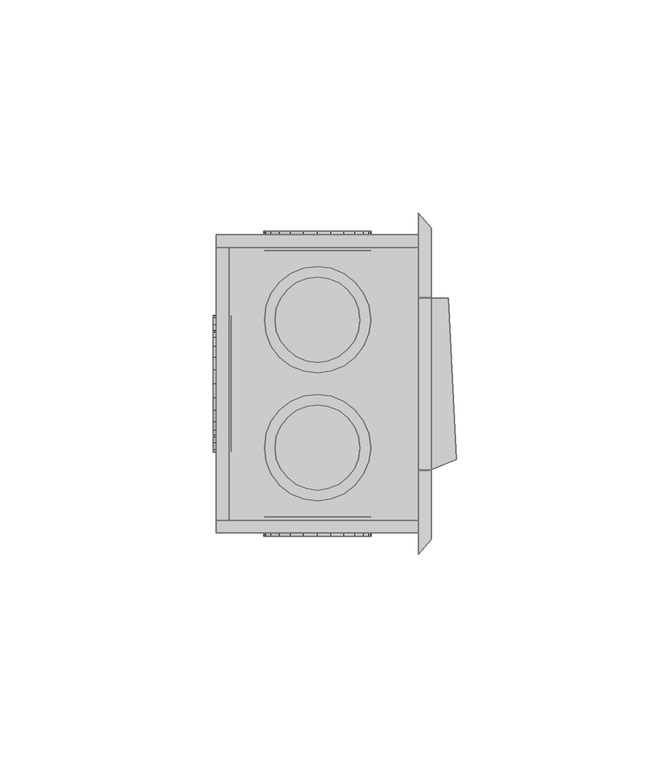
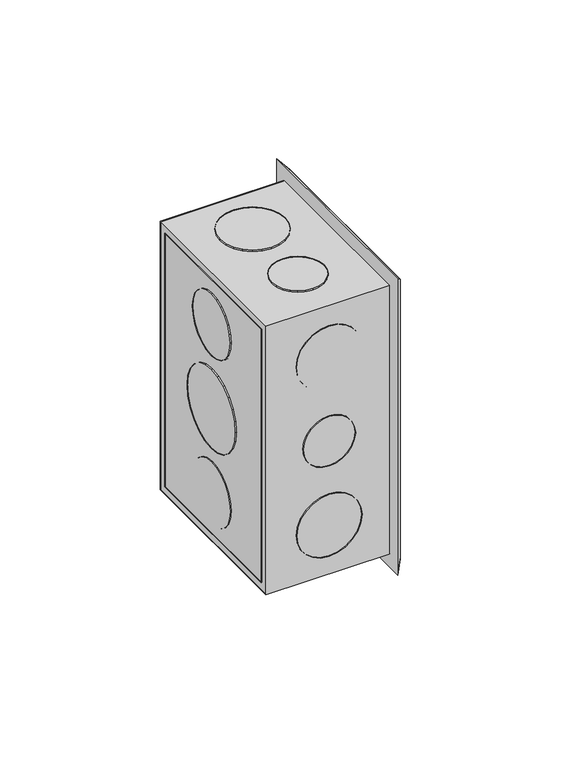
"""IFC4 building model written with IfcOpenShell, lengths in millimetres: proxy geometry,  210773 :  210773."""

from ifc_helpers import new_model, si_unit, origin, place, context, project, spatial, triangles, source, transform, mapped, element, save


def generic_models_089362e7(model_context):
    return source(origin(), model_context, "Body", "Tessellation", [
        triangles([(12653.3997437, 30199.5008423, 1254.3000378), (12653.3997437, 30196.5010254, 1148.7000154), (12653.3997437, 30199.5008423, 1145.6999805), (12653.3997437, 30196.5010254, 1251.2999302), (12653.3997437, 30129.5004639, 1254.3000378), (12653.3997437, 30132.5002808, 1251.2999302), (12653.3997437, 30129.5004639, 1145.6999805), (12653.3997437, 30132.5002808, 1148.7000154), (12605.9003174, 30196.5010254, 1251.2999302), (12605.9003174, 30196.5010254, 1148.7000154), (12605.9003174, 30129.5004639, 1254.3000378), (12605.9003174, 30129.5004639, 1145.6999805), (12605.9003174, 30132.5002808, 1251.2999302), (12605.9003174, 30199.5008423, 1145.6999805), (12605.9003174, 30132.5002808, 1148.7000154), (12605.9003174, 30199.5008423, 1254.3000378), (12608.9001343, 30196.5010254, 1251.2999302), (12608.9001343, 30132.5002808, 1148.7000154), (12608.9001343, 30196.5010254, 1148.7000154), (12608.9001343, 30132.5002808, 1251.2999302), (12609.4001038, 30178.3998047, 1191.9999887), (12609.4001038, 30172.5001648, 1186.0999855), (12609.4001038, 30175.7999634, 1188.6999722), (12609.4001038, 30179.999707, 1195.8999687), (12609.4001038, 30168.7003967, 1184.5000105), (12609.4001038, 30180.4996765, 1200.0000092), (12609.4001038, 30164.5006531, 1183.9999683), (12609.4001038, 30179.999707, 1204.0999769), (12609.4001038, 30160.4009033, 1184.5000105), (12609.4001038, 30178.3998047, 1208.0000296), (12609.4001038, 30156.5011414, 1186.0999855), (12609.4001038, 30175.7999634, 1211.2999735), (12609.4001038, 30153.1990173, 1188.6999722), (12609.4001038, 30172.5001648, 1213.9000328), (12609.4001038, 30150.6991699, 1191.9999887), (12609.4001038, 30168.7003967, 1215.5000078), (12609.4001038, 30149.0992676, 1195.8999687), (12609.4001038, 30164.5006531, 1215.9999773), (12609.4001038, 30148.4993042, 1200.0000092), (12609.4001038, 30160.4009033, 1215.5000078), (12609.4001038, 30149.0992676, 1204.0999769), (12609.4001038, 30156.5011414, 1213.9000328), (12609.4001038, 30150.6991699, 1208.0000296), (12609.4001038, 30153.1990173, 1211.2999735), (12605.2003601, 30160.4009033, 1184.5000105), (12605.2003601, 30164.5006531, 1183.9999683), (12605.2003601, 30168.7003967, 1184.5000105), (12605.2003601, 30172.5001648, 1186.0999855), (12605.2003601, 30175.7999634, 1188.6999722), (12605.2003601, 30178.3998047, 1191.9999887), (12605.2003601, 30179.999707, 1195.8999687), (12605.2003601, 30180.4996765, 1200.0000092), (12605.2003601, 30179.999707, 1204.0999769), (12605.2003601, 30178.3998047, 1208.0000296), (12605.2003601, 30175.7999634, 1211.2999735), (12605.2003601, 30172.5001648, 1213.9000328), (12605.2003601, 30168.7003967, 1215.5000078), (12605.2003601, 30164.5006531, 1215.9999773), (12605.2003601, 30160.4009033, 1215.5000078), (12605.2003601, 30156.5011414, 1213.9000328), (12605.2003601, 30153.1990173, 1211.2999735), (12605.2003601, 30150.6991699, 1208.0000296), (12605.2003601, 30149.0992676, 1204.0999769), (12605.2003601, 30148.4993042, 1200.0000092), (12605.2003601, 30149.0992676, 1195.8999687), (12605.2003601, 30150.6991699, 1191.9999887), (12605.2003601, 30153.1990173, 1188.6999722), (12605.2003601, 30156.5011414, 1186.0999855), (12609.4001038, 30175.3999878, 1227.8000565), (12609.4001038, 30170.8002686, 1223.2000465), (12609.4001038, 30173.4001099, 1225.2000698), (12609.4001038, 30176.5999146, 1230.8000187), (12609.4001038, 30167.8004517, 1221.8999805), (12609.4001038, 30176.9998901, 1233.9999687), (12609.4001038, 30164.5006531, 1221.500005), (12609.4001038, 30176.5999146, 1237.2000641), (12609.4001038, 30161.3008484, 1221.8999805), (12609.4001038, 30175.3999878, 1240.3000202), (12609.4001038, 30158.3010315, 1223.2000465), (12609.4001038, 30173.4001099, 1242.800013), (12609.4001038, 30155.6988647, 1225.2000698), (12609.4001038, 30153.6989868, 1227.8000565), (12609.4001038, 30170.8002686, 1244.8000362), (12609.4001038, 30167.8004517, 1246.0999569), (12609.4001038, 30152.4990601, 1230.8000187), (12609.4001038, 30164.5006531, 1246.4999325), (12609.4001038, 30151.9990906, 1233.9999687), (12609.4001038, 30161.3008484, 1246.0999569), (12609.4001038, 30152.4990601, 1237.2000641), (12609.4001038, 30153.6989868, 1240.3000202), (12609.4001038, 30158.3010315, 1244.8000362), (12609.4001038, 30155.6988647, 1242.800013), (12605.2003601, 30152.4990601, 1230.8000187), (12605.2003601, 30153.6989868, 1227.8000565), (12605.2003601, 30155.6988647, 1225.2000698), (12605.2003601, 30158.3010315, 1223.2000465), (12605.2003601, 30161.3008484, 1221.8999805), (12605.2003601, 30164.5006531, 1221.500005), (12605.2003601, 30167.8004517, 1221.8999805), (12605.2003601, 30170.8002686, 1223.2000465), (12605.2003601, 30173.4001099, 1225.2000698), (12605.2003601, 30175.3999878, 1227.8000565), (12605.2003601, 30176.5999146, 1230.8000187), (12605.2003601, 30176.9998901, 1233.9999687), (12605.2003601, 30176.5999146, 1237.2000641), (12605.2003601, 30175.3999878, 1240.3000202), (12605.2003601, 30173.4001099, 1242.800013), (12605.2003601, 30170.8002686, 1244.8000362), (12605.2003601, 30167.8004517, 1246.0999569), (12605.2003601, 30164.5006531, 1246.4999325), (12605.2003601, 30161.3008484, 1246.0999569), (12605.2003601, 30158.3010315, 1244.8000362), (12605.2003601, 30155.6988647, 1242.800013), (12605.2003601, 30153.6989868, 1240.3000202), (12605.2003601, 30152.4990601, 1237.2000641), (12605.2003601, 30151.9990906, 1233.9999687), (12605.2003601, 30170.8002686, 1155.1999821), (12605.2003601, 30175.3999878, 1159.6999981), (12605.2003601, 30173.4001099, 1157.2000053), (12605.2003601, 30167.8004517, 1153.8999887), (12605.2003601, 30176.5999146, 1162.8000269), (12605.2003601, 30164.5006531, 1153.5000132), (12605.2003601, 30176.9998901, 1165.9999769), (12605.2003601, 30161.3008484, 1153.8999887), (12605.2003601, 30176.5999146, 1169.1999996), (12605.2003601, 30158.3010315, 1155.1999821), (12605.2003601, 30175.3999878, 1172.2000345), (12605.2003601, 30155.6988647, 1157.2000053), (12605.2003601, 30173.4001099, 1174.8000212), (12605.2003601, 30153.6989868, 1159.6999981), (12605.2003601, 30170.8002686, 1176.7999718), (12605.2003601, 30152.4990601, 1162.8000269), (12605.2003601, 30167.8004517, 1178.0999651), (12605.2003601, 30164.5006531, 1178.5000134), (12605.2003601, 30151.9990906, 1165.9999769), (12605.2003601, 30152.4990601, 1169.1999996), (12605.2003601, 30161.3008484, 1178.0999651), (12605.2003601, 30153.6989868, 1172.2000345), (12605.2003601, 30158.3010315, 1176.7999718), (12605.2003601, 30155.6988647, 1174.8000212), (12609.4001038, 30167.8004517, 1178.0999651), (12609.4001038, 30164.5006531, 1178.5000134), (12609.4001038, 30170.8002686, 1176.7999718), (12609.4001038, 30173.4001099, 1174.8000212), (12609.4001038, 30175.3999878, 1172.2000345), (12609.4001038, 30176.5999146, 1169.1999996), (12609.4001038, 30176.9998901, 1165.9999769), (12609.4001038, 30176.5999146, 1162.8000269), (12609.4001038, 30175.3999878, 1159.6999981), (12609.4001038, 30173.4001099, 1157.2000053), (12609.4001038, 30170.8002686, 1155.1999821), (12609.4001038, 30167.8004517, 1153.8999887), (12609.4001038, 30164.5006531, 1153.5000132), (12609.4001038, 30161.3008484, 1153.8999887), (12609.4001038, 30158.3010315, 1155.1999821), (12609.4001038, 30155.6988647, 1157.2000053), (12609.4001038, 30153.6989868, 1159.6999981), (12609.4001038, 30152.4990601, 1162.8000269), (12609.4001038, 30151.9990906, 1165.9999769), (12609.4001038, 30152.4990601, 1169.1999996), (12609.4001038, 30153.6989868, 1172.2000345), (12609.4001038, 30155.6988647, 1174.8000212), (12609.4001038, 30158.3010315, 1176.7999718), (12609.4001038, 30161.3008484, 1178.0999651), (12624.7003326, 30195.7010742, 1191.3000315), (12621.0005585, 30195.7010742, 1195.0000237), (12622.6004608, 30195.7010742, 1192.9000065), (12619.9994568, 30195.7010742, 1197.4000225), (12627.1001862, 30195.7010742, 1190.3000198), (12619.6994751, 30195.7010742, 1200.0000092), (12629.7000275, 30195.7010742, 1189.9999655), (12632.1998749, 30195.7010742, 1190.3000198), (12619.9994568, 30195.7010742, 1202.5999958), (12621.0005585, 30195.7010742, 1204.9999947), (12634.6997223, 30195.7010742, 1191.3000315), (12622.6004608, 30195.7010742, 1207.1000118), (12636.6996002, 30195.7010742, 1192.9000065), (12638.2995026, 30195.7010742, 1195.0000237), (12624.7003326, 30195.7010742, 1208.6999868), (12639.2994415, 30195.7010742, 1197.4000225), (12627.1001862, 30195.7010742, 1209.6999985), (12639.7005798, 30195.7010742, 1200.0000092), (12629.7000275, 30195.7010742, 1209.9999802), (12639.2994415, 30195.7010742, 1202.5999958), (12632.1998749, 30195.7010742, 1209.6999985), (12634.6997223, 30195.7010742, 1208.6999868), (12638.2995026, 30195.7010742, 1204.9999947), (12636.6996002, 30195.7010742, 1207.1000118), (12629.7000275, 30200.3007935, 1189.9999655), (12627.1001862, 30200.3007935, 1190.3000198), (12632.1998749, 30200.3007935, 1190.3000198), (12634.6997223, 30200.3007935, 1191.3000315), (12636.6996002, 30200.3007935, 1192.9000065), (12638.2995026, 30200.3007935, 1195.0000237), (12639.2994415, 30200.3007935, 1197.4000225), (12639.7005798, 30200.3007935, 1200.0000092), (12639.2994415, 30200.3007935, 1202.5999958), (12638.2995026, 30200.3007935, 1204.9999947), (12636.6996002, 30200.3007935, 1207.1000118), (12634.6997223, 30200.3007935, 1208.6999868), (12632.1998749, 30200.3007935, 1209.6999985), (12629.7000275, 30200.3007935, 1209.9999802), (12627.1001862, 30200.3007935, 1209.6999985), (12624.7003326, 30200.3007935, 1208.6999868), (12622.6004608, 30200.3007935, 1207.1000118), (12621.0005585, 30200.3007935, 1204.9999947), (12619.9994568, 30200.3007935, 1202.5999958), (12619.6994751, 30200.3007935, 1200.0000092), (12619.9994568, 30200.3007935, 1197.4000225), (12621.0005585, 30200.3007935, 1195.0000237), (12622.6004608, 30200.3007935, 1192.9000065), (12624.7003326, 30200.3007935, 1191.3000315), (12623.400412, 30195.7010742, 1223.2000465), (12618.79953, 30195.7010742, 1227.8000565), (12620.8005707, 30195.7010742, 1225.2000698), (12626.4002289, 30195.7010742, 1221.8999805), (12617.5996033, 30195.7010742, 1230.8000187), (12617.1996277, 30195.7010742, 1233.9999687), (12629.7000275, 30195.7010742, 1221.500005), (12632.8998322, 30195.7010742, 1221.8999805), (12617.5996033, 30195.7010742, 1237.2000641), (12618.79953, 30195.7010742, 1240.3000202), (12635.899649, 30195.7010742, 1223.2000465), (12638.4994904, 30195.7010742, 1225.2000698), (12620.8005707, 30195.7010742, 1242.800013), (12640.500531, 30195.7010742, 1227.8000565), (12623.400412, 30195.7010742, 1244.8000362), (12641.7004578, 30195.7010742, 1230.8000187), (12626.4002289, 30195.7010742, 1246.0999569), (12642.2004272, 30195.7010742, 1233.9999687), (12629.7000275, 30195.7010742, 1246.4999325), (12641.7004578, 30195.7010742, 1237.2000641), (12632.8998322, 30195.7010742, 1246.0999569), (12640.500531, 30195.7010742, 1240.3000202), (12635.899649, 30195.7010742, 1244.8000362), (12638.4994904, 30195.7010742, 1242.800013), (12629.7000275, 30200.3007935, 1221.500005), (12626.4002289, 30200.3007935, 1221.8999805), (12632.8998322, 30200.3007935, 1221.8999805), (12635.899649, 30200.3007935, 1223.2000465), (12638.4994904, 30200.3007935, 1225.2000698), (12640.500531, 30200.3007935, 1227.8000565), (12641.7004578, 30200.3007935, 1230.8000187), (12642.2004272, 30200.3007935, 1233.9999687), (12641.7004578, 30200.3007935, 1237.2000641), (12640.500531, 30200.3007935, 1240.3000202), (12638.4994904, 30200.3007935, 1242.800013), (12635.899649, 30200.3007935, 1244.8000362), (12632.8998322, 30200.3007935, 1246.0999569), (12629.7000275, 30200.3007935, 1246.4999325), (12626.4002289, 30200.3007935, 1246.0999569), (12623.400412, 30200.3007935, 1244.8000362), (12620.8005707, 30200.3007935, 1242.800013), (12618.79953, 30200.3007935, 1240.3000202), (12617.5996033, 30200.3007935, 1237.2000641), (12617.1996277, 30200.3007935, 1233.9999687), (12617.5996033, 30200.3007935, 1230.8000187), (12618.79953, 30200.3007935, 1227.8000565), (12620.8005707, 30200.3007935, 1225.2000698), (12623.400412, 30200.3007935, 1223.2000465), (12618.79953, 30200.3007935, 1159.6999981), (12623.400412, 30200.3007935, 1155.1999821), (12620.8005707, 30200.3007935, 1157.2000053), (12617.5996033, 30200.3007935, 1162.8000269), (12626.4002289, 30200.3007935, 1153.8999887), (12617.1996277, 30200.3007935, 1165.9999769), (12629.7000275, 30200.3007935, 1153.5000132), (12617.5996033, 30200.3007935, 1169.1999996), (12632.8998322, 30200.3007935, 1153.8999887), (12618.79953, 30200.3007935, 1172.2000345), (12635.899649, 30200.3007935, 1155.1999821), (12620.8005707, 30200.3007935, 1174.8000212), (12638.4994904, 30200.3007935, 1157.2000053), (12623.400412, 30200.3007935, 1176.7999718), (12640.500531, 30200.3007935, 1159.6999981), (12626.4002289, 30200.3007935, 1178.0999651), (12641.7004578, 30200.3007935, 1162.8000269), (12629.7000275, 30200.3007935, 1178.5000134), (12642.2004272, 30200.3007935, 1165.9999769), (12632.8998322, 30200.3007935, 1178.0999651), (12641.7004578, 30200.3007935, 1169.1999996), (12635.899649, 30200.3007935, 1176.7999718), (12640.500531, 30200.3007935, 1172.2000345), (12638.4994904, 30200.3007935, 1174.8000212), (12626.4002289, 30195.7010742, 1178.0999651), (12629.7000275, 30195.7010742, 1178.5000134), (12632.8998322, 30195.7010742, 1178.0999651), (12635.899649, 30195.7010742, 1176.7999718), (12638.4994904, 30195.7010742, 1174.8000212), (12640.500531, 30195.7010742, 1172.2000345), (12641.7004578, 30195.7010742, 1169.1999996), (12642.2004272, 30195.7010742, 1165.9999769), (12641.7004578, 30195.7010742, 1162.8000269), (12640.500531, 30195.7010742, 1159.6999981), (12638.4994904, 30195.7010742, 1157.2000053), (12635.899649, 30195.7010742, 1155.1999821), (12632.8998322, 30195.7010742, 1153.8999887), (12629.7000275, 30195.7010742, 1153.5000132), (12626.4002289, 30195.7010742, 1153.8999887), (12623.400412, 30195.7010742, 1155.1999821), (12620.8005707, 30195.7010742, 1157.2000053), (12618.79953, 30195.7010742, 1159.6999981), (12617.5996033, 30195.7010742, 1162.8000269), (12617.1996277, 30195.7010742, 1165.9999769), (12617.5996033, 30195.7010742, 1169.1999996), (12618.79953, 30195.7010742, 1172.2000345), (12620.8005707, 30195.7010742, 1174.8000212), (12623.400412, 30195.7010742, 1176.7999718), (12621.0005585, 30133.3002319, 1195.0000237), (12624.7003326, 30133.3002319, 1191.3000315), (12622.6004608, 30133.3002319, 1192.9000065), (12619.9994568, 30133.3002319, 1197.4000225), (12627.1001862, 30133.3002319, 1190.3000198), (12619.6994751, 30133.3002319, 1200.0000092), (12629.7000275, 30133.3002319, 1189.9999655), (12619.9994568, 30133.3002319, 1202.5999958), (12632.1998749, 30133.3002319, 1190.3000198), (12621.0005585, 30133.3002319, 1204.9999947), (12634.6997223, 30133.3002319, 1191.3000315), (12622.6004608, 30133.3002319, 1207.1000118), (12636.6996002, 30133.3002319, 1192.9000065), (12624.7003326, 30133.3002319, 1208.6999868), (12638.2995026, 30133.3002319, 1195.0000237), (12627.1001862, 30133.3002319, 1209.6999985), (12639.2994415, 30133.3002319, 1197.4000225), (12639.7005798, 30133.3002319, 1200.0000092), (12629.7000275, 30133.3002319, 1209.9999802), (12632.1998749, 30133.3002319, 1209.6999985), (12639.2994415, 30133.3002319, 1202.5999958), (12634.6997223, 30133.3002319, 1208.6999868), (12638.2995026, 30133.3002319, 1204.9999947), (12636.6996002, 30133.3002319, 1207.1000118), (12627.1001862, 30128.7005127, 1209.6999985), (12629.7000275, 30128.7005127, 1209.9999802), (12632.1998749, 30128.7005127, 1209.6999985), (12634.6997223, 30128.7005127, 1208.6999868), (12636.6996002, 30128.7005127, 1207.1000118), (12638.2995026, 30128.7005127, 1204.9999947), (12639.2994415, 30128.7005127, 1202.5999958), (12639.7005798, 30128.7005127, 1200.0000092), (12639.2994415, 30128.7005127, 1197.4000225), (12638.2995026, 30128.7005127, 1195.0000237), (12636.6996002, 30128.7005127, 1192.9000065), (12634.6997223, 30128.7005127, 1191.3000315), (12632.1998749, 30128.7005127, 1190.3000198), (12629.7000275, 30128.7005127, 1189.9999655), (12627.1001862, 30128.7005127, 1190.3000198), (12624.7003326, 30128.7005127, 1191.3000315), (12622.6004608, 30128.7005127, 1192.9000065), (12621.0005585, 30128.7005127, 1195.0000237), (12619.9994568, 30128.7005127, 1197.4000225), (12619.6994751, 30128.7005127, 1200.0000092), (12619.9994568, 30128.7005127, 1202.5999958), (12621.0005585, 30128.7005127, 1204.9999947), (12622.6004608, 30128.7005127, 1207.1000118), (12624.7003326, 30128.7005127, 1208.6999868), (12618.79953, 30133.3002319, 1159.6999981), (12623.400412, 30133.3002319, 1155.1999821), (12620.8005707, 30133.3002319, 1157.2000053), (12617.5996033, 30133.3002319, 1162.8000269), (12626.4002289, 30133.3002319, 1153.8999887), (12617.1996277, 30133.3002319, 1165.9999769), (12629.7000275, 30133.3002319, 1153.5000132), (12617.5996033, 30133.3002319, 1169.1999996), (12632.8998322, 30133.3002319, 1153.8999887), (12618.79953, 30133.3002319, 1172.2000345), (12635.899649, 30133.3002319, 1155.1999821), (12620.8005707, 30133.3002319, 1174.8000212), (12638.4994904, 30133.3002319, 1157.2000053), (12623.400412, 30133.3002319, 1176.7999718), (12640.500531, 30133.3002319, 1159.6999981), (12626.4002289, 30133.3002319, 1178.0999651), (12641.7004578, 30133.3002319, 1162.8000269), (12629.7000275, 30133.3002319, 1178.5000134), (12642.2004272, 30133.3002319, 1165.9999769), (12632.8998322, 30133.3002319, 1178.0999651), (12641.7004578, 30133.3002319, 1169.1999996), (12635.899649, 30133.3002319, 1176.7999718), (12640.500531, 30133.3002319, 1172.2000345), (12638.4994904, 30133.3002319, 1174.8000212), (12626.4002289, 30128.7005127, 1178.0999651), (12629.7000275, 30128.7005127, 1178.5000134), (12632.8998322, 30128.7005127, 1178.0999651), (12635.899649, 30128.7005127, 1176.7999718), (12638.4994904, 30128.7005127, 1174.8000212), (12640.500531, 30128.7005127, 1172.2000345), (12641.7004578, 30128.7005127, 1169.1999996), (12642.2004272, 30128.7005127, 1165.9999769), (12641.7004578, 30128.7005127, 1162.8000269), (12640.500531, 30128.7005127, 1159.6999981), (12638.4994904, 30128.7005127, 1157.2000053), (12635.899649, 30128.7005127, 1155.1999821), (12632.8998322, 30128.7005127, 1153.8999887), (12629.7000275, 30128.7005127, 1153.5000132), (12626.4002289, 30128.7005127, 1153.8999887), (12623.400412, 30128.7005127, 1155.1999821), (12620.8005707, 30128.7005127, 1157.2000053), (12618.79953, 30128.7005127, 1159.6999981), (12617.5996033, 30128.7005127, 1162.8000269), (12617.1996277, 30128.7005127, 1165.9999769), (12617.5996033, 30128.7005127, 1169.1999996), (12618.79953, 30128.7005127, 1172.2000345), (12620.8005707, 30128.7005127, 1174.8000212), (12623.400412, 30128.7005127, 1176.7999718), (12623.400412, 30128.7005127, 1223.2000465), (12618.79953, 30128.7005127, 1227.8000565), (12620.8005707, 30128.7005127, 1225.2000698), (12626.4002289, 30128.7005127, 1221.8999805), (12617.5996033, 30128.7005127, 1230.8000187), (12617.1996277, 30128.7005127, 1233.9999687), (12629.7000275, 30128.7005127, 1221.500005), (12632.8998322, 30128.7005127, 1221.8999805), (12617.5996033, 30128.7005127, 1237.2000641), (12618.79953, 30128.7005127, 1240.3000202), (12635.899649, 30128.7005127, 1223.2000465), (12638.4994904, 30128.7005127, 1225.2000698), (12620.8005707, 30128.7005127, 1242.800013), (12640.500531, 30128.7005127, 1227.8000565), (12623.400412, 30128.7005127, 1244.8000362), (12641.7004578, 30128.7005127, 1230.8000187), (12626.4002289, 30128.7005127, 1246.0999569), (12642.2004272, 30128.7005127, 1233.9999687), (12629.7000275, 30128.7005127, 1246.4999325), (12641.7004578, 30128.7005127, 1237.2000641), (12632.8998322, 30128.7005127, 1246.0999569), (12640.500531, 30128.7005127, 1240.3000202), (12635.899649, 30128.7005127, 1244.8000362), (12638.4994904, 30128.7005127, 1242.800013), (12629.7000275, 30133.3002319, 1221.500005), (12626.4002289, 30133.3002319, 1221.8999805), (12632.8998322, 30133.3002319, 1221.8999805), (12635.899649, 30133.3002319, 1223.2000465), (12638.4994904, 30133.3002319, 1225.2000698), (12640.500531, 30133.3002319, 1227.8000565), (12641.7004578, 30133.3002319, 1230.8000187), (12642.2004272, 30133.3002319, 1233.9999687), (12641.7004578, 30133.3002319, 1237.2000641), (12640.500531, 30133.3002319, 1240.3000202), (12638.4994904, 30133.3002319, 1242.800013), (12635.899649, 30133.3002319, 1244.8000362), (12632.8998322, 30133.3002319, 1246.0999569), (12629.7000275, 30133.3002319, 1246.4999325), (12626.4002289, 30133.3002319, 1246.0999569), (12623.400412, 30133.3002319, 1244.8000362), (12620.8005707, 30133.3002319, 1242.800013), (12618.79953, 30133.3002319, 1240.3000202), (12617.5996033, 30133.3002319, 1237.2000641), (12617.1996277, 30133.3002319, 1233.9999687), (12617.5996033, 30133.3002319, 1230.8000187), (12618.79953, 30133.3002319, 1227.8000565), (12620.8005707, 30133.3002319, 1225.2000698), (12623.400412, 30133.3002319, 1223.2000465), (12623.400412, 30190.3990723, 1250.9999485), (12618.79953, 30185.799353, 1250.9999485), (12620.8005707, 30188.3991943, 1250.9999485), (12626.4002289, 30191.598999, 1250.9999485), (12617.5996033, 30182.7995361, 1250.9999485), (12617.1996277, 30179.4997375, 1250.9999485), (12629.7000275, 30191.9989746, 1250.9999485), (12632.8998322, 30191.598999, 1250.9999485), (12617.5996033, 30176.2999329, 1250.9999485), (12618.79953, 30173.300116, 1250.9999485), (12635.899649, 30190.3990723, 1250.9999485), (12638.4994904, 30188.3991943, 1250.9999485), (12620.8005707, 30170.7002747, 1250.9999485), (12623.400412, 30168.7003967, 1250.9999485), (12640.500531, 30185.799353, 1250.9999485), (12641.7004578, 30182.7995361, 1250.9999485), (12626.4002289, 30167.50047, 1250.9999485), (12642.2004272, 30179.4997375, 1250.9999485), (12629.7000275, 30167.0005005, 1250.9999485), (12641.7004578, 30176.2999329, 1250.9999485), (12632.8998322, 30167.50047, 1250.9999485), (12635.899649, 30168.7003967, 1250.9999485), (12640.500531, 30173.300116, 1250.9999485), (12638.4994904, 30170.7002747, 1250.9999485), (12617.1996277, 30179.4997375, 1255.1999828), (12617.5996033, 30176.2999329, 1255.1999828), (12617.5996033, 30182.7995361, 1255.1999828), (12618.79953, 30185.799353, 1255.1999828), (12620.8005707, 30188.3991943, 1255.1999828), (12623.400412, 30190.3990723, 1255.1999828), (12626.4002289, 30191.598999, 1255.1999828), (12629.7000275, 30191.9989746, 1255.1999828), (12632.8998322, 30191.598999, 1255.1999828), (12635.899649, 30190.3990723, 1255.1999828), (12638.4994904, 30188.3991943, 1255.1999828), (12640.500531, 30185.799353, 1255.1999828), (12641.7004578, 30182.7995361, 1255.1999828), (12642.2004272, 30179.4997375, 1255.1999828), (12641.7004578, 30176.2999329, 1255.1999828), (12640.500531, 30173.300116, 1255.1999828), (12638.4994904, 30170.7002747, 1255.1999828), (12635.899649, 30168.7003967, 1255.1999828), (12632.8998322, 30167.50047, 1255.1999828), (12629.7000275, 30167.0005005, 1255.1999828), (12626.4002289, 30167.50047, 1255.1999828), (12623.400412, 30168.7003967, 1255.1999828), (12620.8005707, 30170.7002747, 1255.1999828), (12618.79953, 30173.300116, 1255.1999828), (12624.7003326, 30158.2010376, 1250.9999485), (12621.0005585, 30154.498938, 1250.9999485), (12622.6004608, 30156.6011353, 1250.9999485), (12619.9994568, 30152.0990845, 1250.9999485), (12627.1001862, 30159.2009766, 1250.9999485), (12619.6994751, 30149.4992432, 1250.9999485), (12629.7000275, 30159.5009583, 1250.9999485), (12632.1998749, 30159.2009766, 1250.9999485), (12619.9994568, 30146.8994019, 1250.9999485), (12621.0005585, 30144.4995483, 1250.9999485), (12634.6997223, 30158.2010376, 1250.9999485), (12622.6004608, 30142.4996704, 1250.9999485), (12636.6996002, 30156.6011353, 1250.9999485), (12638.2995026, 30154.498938, 1250.9999485), (12624.7003326, 30140.8997681, 1250.9999485), (12627.1001862, 30139.8998291, 1250.9999485), (12639.2994415, 30152.0990845, 1250.9999485), (12639.7005798, 30149.4992432, 1250.9999485), (12629.7000275, 30139.4998535, 1250.9999485), (12639.2994415, 30146.8994019, 1250.9999485), (12632.1998749, 30139.8998291, 1250.9999485), (12638.2995026, 30144.4995483, 1250.9999485), (12634.6997223, 30140.8997681, 1250.9999485), (12636.6996002, 30142.4996704, 1250.9999485), (12619.9994568, 30146.8994019, 1255.1999828), (12621.0005585, 30144.4995483, 1255.1999828), (12619.6994751, 30149.4992432, 1255.1999828), (12619.9994568, 30152.0990845, 1255.1999828), (12621.0005585, 30154.498938, 1255.1999828), (12622.6004608, 30156.6011353, 1255.1999828), (12624.7003326, 30158.2010376, 1255.1999828), (12627.1001862, 30159.2009766, 1255.1999828), (12629.7000275, 30159.5009583, 1255.1999828), (12632.1998749, 30159.2009766, 1255.1999828), (12634.6997223, 30158.2010376, 1255.1999828), (12636.6996002, 30156.6011353, 1255.1999828), (12638.2995026, 30154.498938, 1255.1999828), (12639.2994415, 30152.0990845, 1255.1999828), (12639.7005798, 30149.4992432, 1255.1999828), (12639.2994415, 30146.8994019, 1255.1999828), (12638.2995026, 30144.4995483, 1255.1999828), (12636.6996002, 30142.4996704, 1255.1999828), (12634.6997223, 30140.8997681, 1255.1999828), (12632.1998749, 30139.8998291, 1255.1999828), (12629.7000275, 30139.4998535, 1255.1999828), (12627.1001862, 30139.8998291, 1255.1999828), (12624.7003326, 30140.8997681, 1255.1999828), (12622.6004608, 30142.4996704, 1255.1999828), (12624.7003326, 30188.1992065, 1144.8000355), (12621.0005585, 30184.4994324, 1144.8000355), (12622.6004608, 30186.5993042, 1144.8000355), (12619.9994568, 30182.0995789, 1144.8000355), (12627.1001862, 30189.1991455, 1144.8000355), (12619.6994751, 30179.4997375, 1144.8000355), (12629.7000275, 30189.4991272, 1144.8000355), (12632.1998749, 30189.1991455, 1144.8000355), (12619.9994568, 30176.8998962, 1144.8000355), (12621.0005585, 30174.5000427, 1144.8000355), (12634.6997223, 30188.1992065, 1144.8000355), (12622.6004608, 30172.5001648, 1144.8000355), (12636.6996002, 30186.5993042, 1144.8000355), (12638.2995026, 30184.4994324, 1144.8000355), (12624.7003326, 30170.9002625, 1144.8000355), (12627.1001862, 30169.9003235, 1144.8000355), (12639.2994415, 30182.0995789, 1144.8000355), (12639.7005798, 30179.4997375, 1144.8000355), (12629.7000275, 30169.5003479, 1144.8000355), (12639.2994415, 30176.8998962, 1144.8000355), (12632.1998749, 30169.9003235, 1144.8000355), (12638.2995026, 30174.5000427, 1144.8000355), (12634.6997223, 30170.9002625, 1144.8000355), (12636.6996002, 30172.5001648, 1144.8000355), (12619.9994568, 30182.0995789, 1149.099991), (12619.6994751, 30179.4997375, 1149.099991), (12621.0005585, 30184.4994324, 1149.099991), (12622.6004608, 30186.5993042, 1149.099991), (12624.7003326, 30188.1992065, 1149.099991), (12627.1001862, 30189.1991455, 1149.099991), (12629.7000275, 30189.4991272, 1149.099991), (12632.1998749, 30189.1991455, 1149.099991), (12634.6997223, 30188.1992065, 1149.099991), (12636.6996002, 30186.5993042, 1149.099991), (12638.2995026, 30184.4994324, 1149.099991), (12639.2994415, 30182.0995789, 1149.099991), (12639.7005798, 30179.4997375, 1149.099991), (12639.2994415, 30176.8998962, 1149.099991), (12638.2995026, 30174.5000427, 1149.099991), (12636.6996002, 30172.5001648, 1149.099991), (12634.6997223, 30170.9002625, 1149.099991), (12632.1998749, 30169.9003235, 1149.099991), (12629.7000275, 30169.5003479, 1149.099991), (12627.1001862, 30169.9003235, 1149.099991), (12624.7003326, 30170.9002625, 1149.099991), (12622.6004608, 30172.5001648, 1149.099991), (12621.0005585, 30174.5000427, 1149.099991), (12619.9994568, 30176.8998962, 1149.099991), (12623.400412, 30160.4009033, 1144.8000355), (12618.79953, 30155.7988586, 1144.8000355), (12620.8005707, 30158.4010254, 1144.8000355), (12626.4002289, 30161.6008301, 1144.8000355), (12617.5996033, 30152.7990417, 1144.8000355), (12617.1996277, 30149.4992432, 1144.8000355), (12629.7000275, 30162.0008057, 1144.8000355), (12632.8998322, 30161.6008301, 1144.8000355), (12617.5996033, 30146.2994385, 1144.8000355), (12618.79953, 30143.2996216, 1144.8000355), (12635.899649, 30160.4009033, 1144.8000355), (12638.4994904, 30158.4010254, 1144.8000355), (12620.8005707, 30140.6997803, 1144.8000355), (12623.400412, 30138.6999023, 1144.8000355), (12640.500531, 30155.7988586, 1144.8000355), (12641.7004578, 30152.7990417, 1144.8000355), (12626.4002289, 30137.4999756, 1144.8000355), (12642.2004272, 30149.4992432, 1144.8000355), (12629.7000275, 30137.0000061, 1144.8000355), (12641.7004578, 30146.2994385, 1144.8000355), (12632.8998322, 30137.4999756, 1144.8000355), (12635.899649, 30138.6999023, 1144.8000355), (12640.500531, 30143.2996216, 1144.8000355), (12638.4994904, 30140.6997803, 1144.8000355), (12617.5996033, 30146.2994385, 1149.099991), (12618.79953, 30143.2996216, 1149.099991), (12617.1996277, 30149.4992432, 1149.099991), (12617.5996033, 30152.7990417, 1149.099991), (12618.79953, 30155.7988586, 1149.099991), (12620.8005707, 30158.4010254, 1149.099991), (12623.400412, 30160.4009033, 1149.099991), (12626.4002289, 30161.6008301, 1149.099991), (12629.7000275, 30162.0008057, 1149.099991), (12632.8998322, 30161.6008301, 1149.099991), (12635.899649, 30160.4009033, 1149.099991), (12638.4994904, 30158.4010254, 1149.099991), (12640.500531, 30155.7988586, 1149.099991), (12641.7004578, 30152.7990417, 1149.099991), (12642.2004272, 30149.4992432, 1149.099991), (12641.7004578, 30146.2994385, 1149.099991), (12640.500531, 30143.2996216, 1149.099991), (12638.4994904, 30140.6997803, 1149.099991), (12635.899649, 30138.6999023, 1149.099991), (12632.8998322, 30137.4999756, 1149.099991), (12629.7000275, 30137.0000061, 1149.099991), (12626.4002289, 30137.4999756, 1149.099991), (12623.400412, 30138.6999023, 1149.099991), (12620.8005707, 30140.6997803, 1149.099991), (12653.3997437, 30124.500769, 1139.9999651), (12653.3997437, 30184.6994202, 1188.2999966), (12653.3997437, 30204.5005371, 1139.9999651), (12653.3997437, 30144.2995605, 1188.2999966), (12653.3997437, 30124.500769, 1259.9999805), (12653.3997437, 30144.2995605, 1211.7000217), (12653.3997437, 30204.5005371, 1259.9999805), (12653.3997437, 30184.6994202, 1211.7000217), (12656.3995605, 30144.2995605, 1188.2999966), (12656.3995605, 30144.2995605, 1211.7000217), (12656.3995605, 30184.6994202, 1188.2999966), (12656.3995605, 30184.6994202, 1211.7000217), (12656.3995605, 30201.0007507, 1143.4999695), (12656.3995605, 30201.0007507, 1256.5000488), (12656.3995605, 30128.0005554, 1143.4999695), (12656.3995605, 30128.0005554, 1256.5000488), (12660.4004791, 30184.5994263, 1188.1000088), (12653.3997437, 30144.1995667, 1188.1000088), (12653.3997437, 30184.5994263, 1188.1000088), (12662.3003632, 30146.799408, 1188.1000088), (12655.8995911, 30144.1995667, 1188.1000088), (12653.3997437, 30184.5994263, 1211.500034), (12653.3997437, 30144.1995667, 1211.500034), (12660.4004791, 30184.5994263, 1211.500034), (12662.3003632, 30146.799408, 1211.500034), (12655.8995911, 30144.1995667, 1211.500034)], [[1, 2, 3], [2, 1, 4], [5, 4, 1], [4, 5, 6], [3, 2, 7], [7, 2, 8], [7, 8, 6], [7, 6, 5], [2, 9, 10], [9, 2, 4], [7, 11, 12], [11, 7, 5], [4, 13, 9], [13, 4, 6], [3, 12, 14], [12, 3, 7], [13, 8, 15], [8, 13, 6], [16, 3, 14], [3, 16, 1], [15, 2, 10], [2, 15, 8], [11, 1, 16], [1, 11, 5], [12, 10, 14], [10, 12, 15], [11, 15, 12], [15, 11, 13], [14, 10, 16], [16, 10, 9], [16, 9, 13], [16, 13, 11], [17, 18, 19], [18, 17, 20], [18, 13, 15], [13, 18, 20], [19, 15, 10], [15, 19, 18], [9, 19, 10], [19, 9, 17], [13, 17, 9], [17, 13, 20], [15, 9, 10], [9, 15, 13], [21, 22, 23], [22, 21, 24], [25, 22, 24], [25, 24, 26], [27, 25, 26], [27, 26, 28], [29, 27, 28], [29, 28, 30], [31, 29, 30], [31, 30, 32], [31, 32, 33], [33, 32, 34], [33, 34, 35], [35, 34, 36], [35, 36, 37], [37, 36, 38], [37, 38, 39], [39, 38, 40], [39, 40, 41], [41, 40, 42], [41, 42, 43], [43, 42, 44], [27, 45, 46], [45, 27, 29], [25, 46, 47], [46, 25, 27], [22, 47, 48], [47, 22, 25], [23, 48, 49], [48, 23, 22], [50, 23, 49], [23, 50, 21], [51, 21, 50], [21, 51, 24], [52, 24, 51], [24, 52, 26], [53, 26, 52], [26, 53, 28], [54, 28, 53], [28, 54, 30], [55, 30, 54], [30, 55, 32], [56, 32, 55], [32, 56, 34], [57, 34, 56], [34, 57, 36], [58, 36, 57], [36, 58, 38], [59, 38, 58], [38, 59, 40], [60, 40, 59], [40, 60, 42], [61, 42, 60], [42, 61, 44], [43, 61, 62], [61, 43, 44], [41, 62, 63], [62, 41, 43], [39, 63, 64], [63, 39, 41], [37, 64, 65], [64, 37, 39], [35, 65, 66], [65, 35, 37], [33, 66, 67], [66, 33, 35], [31, 67, 68], [67, 31, 33], [29, 68, 45], [68, 29, 31], [48, 50, 49], [50, 48, 47], [51, 50, 47], [51, 47, 46], [52, 51, 46], [52, 46, 45], [53, 52, 45], [53, 45, 68], [54, 53, 68], [54, 68, 67], [54, 67, 55], [55, 67, 66], [55, 66, 56], [56, 66, 65], [56, 65, 57], [57, 65, 64], [57, 64, 58], [58, 64, 63], [58, 63, 59], [59, 63, 62], [59, 62, 60], [60, 62, 61], [69, 70, 71], [70, 69, 72], [73, 70, 72], [73, 72, 74], [75, 73, 74], [75, 74, 76], [77, 75, 76], [77, 76, 78], [79, 77, 78], [79, 78, 80], [81, 79, 80], [81, 80, 82], [82, 80, 83], [82, 83, 84], [82, 84, 85], [85, 84, 86], [85, 86, 87], [87, 86, 88], [87, 88, 89], [89, 88, 90], [90, 88, 91], [90, 91, 92], [82, 93, 94], [93, 82, 85], [81, 94, 95], [94, 81, 82], [79, 95, 96], [95, 79, 81], [77, 96, 97], [96, 77, 79], [75, 97, 98], [97, 75, 77], [73, 98, 99], [98, 73, 75], [70, 99, 100], [99, 70, 73], [71, 100, 101], [100, 71, 70], [102, 71, 101], [71, 102, 69], [103, 69, 102], [69, 103, 72], [104, 72, 103], [72, 104, 74], [105, 74, 104], [74, 105, 76], [106, 76, 105], [76, 106, 78], [107, 78, 106], [78, 107, 80], [108, 80, 107], [80, 108, 83], [109, 83, 108], [83, 109, 84], [110, 84, 109], [84, 110, 86], [111, 86, 110], [86, 111, 88], [112, 88, 111], [88, 112, 91], [113, 91, 112], [91, 113, 92], [90, 113, 114], [113, 90, 92], [89, 114, 115], [114, 89, 90], [87, 115, 116], [115, 87, 89], [85, 116, 93], [116, 85, 87], [100, 102, 101], [102, 100, 99], [103, 102, 99], [103, 99, 98], [104, 103, 98], [104, 98, 97], [105, 104, 97], [106, 105, 97], [106, 97, 96], [106, 96, 95], [106, 95, 107], [107, 95, 94], [107, 94, 108], [108, 94, 93], [108, 93, 109], [109, 93, 116], [109, 116, 110], [110, 116, 115], [110, 115, 111], [111, 115, 114], [111, 114, 112], [112, 114, 113], [117, 118, 119], [118, 117, 120], [121, 118, 120], [121, 120, 122], [123, 121, 122], [123, 122, 124], [125, 123, 124], [125, 124, 126], [127, 125, 126], [127, 126, 128], [127, 128, 129], [129, 128, 130], [129, 130, 131], [131, 130, 132], [131, 132, 133], [133, 132, 134], [134, 132, 135], [134, 135, 136], [134, 136, 137], [137, 136, 138], [137, 138, 139], [139, 138, 140], [134, 141, 133], [141, 134, 142], [133, 143, 131], [143, 133, 141], [131, 144, 129], [144, 131, 143], [129, 145, 127], [145, 129, 144], [127, 146, 125], [146, 127, 145], [125, 147, 123], [147, 125, 146], [123, 148, 121], [148, 123, 147], [121, 149, 118], [149, 121, 148], [118, 150, 119], [150, 118, 149], [150, 117, 119], [117, 150, 151], [151, 120, 117], [120, 151, 152], [152, 122, 120], [122, 152, 153], [153, 124, 122], [124, 153, 154], [154, 126, 124], [126, 154, 155], [155, 128, 126], [128, 155, 156], [156, 130, 128], [130, 156, 157], [157, 132, 130], [132, 157, 158], [158, 135, 132], [135, 158, 159], [159, 136, 135], [136, 159, 160], [160, 138, 136], [138, 160, 161], [161, 140, 138], [140, 161, 162], [140, 163, 139], [163, 140, 162], [139, 164, 137], [164, 139, 163], [137, 142, 134], [142, 137, 164], [149, 151, 150], [151, 149, 148], [152, 151, 148], [153, 152, 148], [153, 148, 147], [153, 147, 146], [154, 153, 146], [154, 146, 145], [155, 154, 145], [155, 145, 144], [156, 155, 144], [156, 144, 157], [157, 144, 143], [157, 143, 141], [157, 141, 158], [158, 141, 142], [158, 142, 159], [159, 142, 164], [159, 164, 160], [160, 164, 163], [160, 163, 161], [161, 163, 162], [165, 166, 167], [168, 166, 165], [168, 165, 169], [170, 168, 169], [170, 169, 171], [170, 171, 172], [173, 170, 172], [174, 173, 172], [174, 172, 175], [176, 174, 175], [176, 175, 177], [176, 177, 178], [176, 178, 179], [179, 178, 180], [179, 180, 181], [181, 180, 182], [181, 182, 183], [183, 182, 184], [183, 184, 185], [185, 184, 186], [186, 184, 187], [186, 187, 188], [189, 169, 190], [169, 189, 171], [191, 171, 189], [171, 191, 172], [192, 172, 191], [172, 192, 175], [193, 175, 192], [175, 193, 177], [194, 177, 193], [177, 194, 178], [195, 178, 194], [178, 195, 180], [196, 180, 195], [180, 196, 182], [197, 182, 196], [182, 197, 184], [198, 184, 197], [184, 198, 187], [199, 187, 198], [187, 199, 188], [186, 199, 200], [199, 186, 188], [185, 200, 201], [200, 185, 186], [183, 201, 202], [201, 183, 185], [181, 202, 203], [202, 181, 183], [179, 203, 204], [203, 179, 181], [176, 204, 205], [204, 176, 179], [174, 205, 206], [205, 174, 176], [173, 206, 207], [206, 173, 174], [170, 207, 208], [207, 170, 173], [168, 208, 209], [208, 168, 170], [166, 209, 210], [209, 166, 168], [167, 210, 211], [210, 167, 166], [212, 167, 211], [167, 212, 165], [190, 165, 212], [165, 190, 169], [210, 212, 211], [212, 210, 209], [190, 212, 209], [190, 209, 208], [189, 190, 208], [189, 208, 207], [191, 189, 207], [191, 207, 206], [192, 191, 206], [192, 206, 205], [192, 205, 193], [193, 205, 204], [193, 204, 194], [194, 204, 203], [194, 203, 195], [195, 203, 196], [196, 203, 202], [196, 202, 201], [196, 201, 197], [197, 201, 200], [197, 200, 198], [198, 200, 199], [213, 214, 215], [214, 213, 216], [217, 214, 216], [218, 217, 216], [218, 216, 219], [218, 219, 220], [221, 218, 220], [222, 221, 220], [222, 220, 223], [222, 223, 224], [222, 224, 225], [225, 224, 226], [225, 226, 227], [227, 226, 228], [227, 228, 229], [229, 228, 230], [229, 230, 231], [231, 230, 232], [231, 232, 233], [233, 232, 234], [233, 234, 235], [235, 234, 236], [237, 216, 238], [216, 237, 219], [239, 219, 237], [219, 239, 220], [240, 220, 239], [220, 240, 223], [241, 223, 240], [223, 241, 224], [242, 224, 241], [224, 242, 226], [243, 226, 242], [226, 243, 228], [244, 228, 243], [228, 244, 230], [245, 230, 244], [230, 245, 232], [246, 232, 245], [232, 246, 234], [247, 234, 246], [234, 247, 236], [235, 247, 248], [247, 235, 236], [233, 248, 249], [248, 233, 235], [231, 249, 250], [249, 231, 233], [229, 250, 251], [250, 229, 231], [227, 251, 252], [251, 227, 229], [225, 252, 253], [252, 225, 227], [222, 253, 254], [253, 222, 225], [221, 254, 255], [254, 221, 222], [218, 255, 256], [255, 218, 221], [217, 256, 257], [256, 217, 218], [214, 257, 258], [257, 214, 217], [215, 258, 259], [258, 215, 214], [260, 215, 259], [215, 260, 213], [238, 213, 260], [213, 238, 216], [258, 260, 259], [260, 258, 257], [238, 260, 257], [238, 257, 256], [237, 238, 256], [237, 256, 255], [239, 237, 255], [239, 255, 254], [240, 239, 254], [240, 254, 253], [241, 240, 253], [241, 253, 252], [241, 252, 242], [242, 252, 251], [242, 251, 243], [243, 251, 244], [244, 251, 250], [244, 250, 249], [244, 249, 245], [245, 249, 246], [246, 249, 248], [246, 248, 247], [261, 262, 263], [262, 261, 264], [265, 262, 264], [265, 264, 266], [267, 265, 266], [267, 266, 268], [269, 267, 268], [269, 268, 270], [271, 269, 270], [271, 270, 272], [273, 271, 272], [273, 272, 274], [273, 274, 275], [275, 274, 276], [275, 276, 277], [277, 276, 278], [277, 278, 279], [279, 278, 280], [279, 280, 281], [281, 280, 282], [281, 282, 283], [283, 282, 284], [285, 278, 276], [278, 285, 286], [286, 280, 278], [280, 286, 287], [287, 282, 280], [282, 287, 288], [288, 284, 282], [284, 288, 289], [284, 290, 283], [290, 284, 289], [283, 291, 281], [291, 283, 290], [281, 292, 279], [292, 281, 291], [279, 293, 277], [293, 279, 292], [277, 294, 275], [294, 277, 293], [275, 295, 273], [295, 275, 294], [273, 296, 271], [296, 273, 295], [271, 297, 269], [297, 271, 296], [269, 298, 267], [298, 269, 297], [267, 299, 265], [299, 267, 298], [265, 300, 262], [300, 265, 299], [262, 301, 263], [301, 262, 300], [301, 261, 263], [261, 301, 302], [302, 264, 261], [264, 302, 303], [303, 266, 264], [266, 303, 304], [304, 268, 266], [268, 304, 305], [305, 270, 268], [270, 305, 306], [306, 272, 270], [272, 306, 307], [307, 274, 272], [274, 307, 308], [308, 276, 274], [276, 308, 285], [300, 302, 301], [302, 300, 299], [303, 302, 299], [303, 299, 298], [304, 303, 298], [304, 298, 297], [305, 304, 297], [305, 297, 296], [306, 305, 296], [306, 296, 295], [306, 295, 307], [307, 295, 294], [307, 294, 308], [308, 294, 293], [308, 293, 285], [285, 293, 286], [286, 293, 292], [286, 292, 291], [286, 291, 287], [287, 291, 288], [288, 291, 290], [288, 290, 289], [309, 310, 311], [310, 309, 312], [313, 310, 312], [313, 312, 314], [315, 313, 314], [315, 314, 316], [317, 315, 316], [317, 316, 318], [319, 317, 318], [319, 318, 320], [319, 320, 321], [321, 320, 322], [321, 322, 323], [323, 322, 324], [323, 324, 325], [325, 324, 326], [326, 324, 327], [326, 327, 328], [326, 328, 329], [329, 328, 330], [329, 330, 331], [331, 330, 332], [333, 327, 324], [327, 333, 334], [334, 328, 327], [328, 334, 335], [335, 330, 328], [330, 335, 336], [336, 332, 330], [332, 336, 337], [332, 338, 331], [338, 332, 337], [331, 339, 329], [339, 331, 338], [329, 340, 326], [340, 329, 339], [326, 341, 325], [341, 326, 340], [325, 342, 323], [342, 325, 341], [323, 343, 321], [343, 323, 342], [321, 344, 319], [344, 321, 343], [319, 345, 317], [345, 319, 344], [317, 346, 315], [346, 317, 345], [315, 347, 313], [347, 315, 346], [313, 348, 310], [348, 313, 347], [310, 349, 311], [349, 310, 348], [349, 309, 311], [309, 349, 350], [350, 312, 309], [312, 350, 351], [351, 314, 312], [314, 351, 352], [352, 316, 314], [316, 352, 353], [353, 318, 316], [318, 353, 354], [354, 320, 318], [320, 354, 355], [355, 322, 320], [322, 355, 356], [356, 324, 322], [324, 356, 333], [348, 350, 349], [351, 350, 348], [351, 348, 347], [352, 351, 347], [352, 347, 346], [352, 346, 345], [353, 352, 345], [354, 353, 345], [354, 345, 344], [355, 354, 344], [355, 344, 343], [355, 343, 342], [355, 342, 356], [356, 342, 341], [356, 341, 333], [333, 341, 340], [333, 340, 334], [334, 340, 339], [334, 339, 335], [335, 339, 336], [336, 339, 338], [336, 338, 337], [357, 358, 359], [358, 357, 360], [361, 358, 360], [361, 360, 362], [363, 361, 362], [363, 362, 364], [365, 363, 364], [365, 364, 366], [367, 365, 366], [367, 366, 368], [369, 367, 368], [369, 368, 370], [369, 370, 371], [371, 370, 372], [371, 372, 373], [373, 372, 374], [373, 374, 375], [375, 374, 376], [375, 376, 377], [377, 376, 378], [377, 378, 379], [379, 378, 380], [381, 374, 372], [374, 381, 382], [382, 376, 374], [376, 382, 383], [383, 378, 376], [378, 383, 384], [384, 380, 378], [380, 384, 385], [380, 386, 379], [386, 380, 385], [379, 387, 377], [387, 379, 386], [377, 388, 375], [388, 377, 387], [375, 389, 373], [389, 375, 388], [373, 390, 371], [390, 373, 389], [371, 391, 369], [391, 371, 390], [369, 392, 367], [392, 369, 391], [367, 393, 365], [393, 367, 392], [365, 394, 363], [394, 365, 393], [363, 395, 361], [395, 363, 394], [361, 396, 358], [396, 361, 395], [358, 397, 359], [397, 358, 396], [397, 357, 359], [357, 397, 398], [398, 360, 357], [360, 398, 399], [399, 362, 360], [362, 399, 400], [400, 364, 362], [364, 400, 401], [401, 366, 364], [366, 401, 402], [402, 368, 366], [368, 402, 403], [403, 370, 368], [370, 403, 404], [404, 372, 370], [372, 404, 381], [396, 398, 397], [398, 396, 395], [399, 398, 395], [399, 395, 394], [400, 399, 394], [400, 394, 393], [401, 400, 393], [401, 393, 392], [402, 401, 392], [402, 392, 391], [402, 391, 403], [403, 391, 390], [403, 390, 404], [404, 390, 389], [404, 389, 381], [381, 389, 382], [382, 389, 388], [382, 388, 387], [382, 387, 383], [383, 387, 384], [384, 387, 386], [384, 386, 385], [405, 406, 407], [406, 405, 408], [409, 406, 408], [410, 409, 408], [410, 408, 411], [410, 411, 412], [413, 410, 412], [414, 413, 412], [414, 412, 415], [414, 415, 416], [414, 416, 417], [417, 416, 418], [417, 418, 419], [419, 418, 420], [419, 420, 421], [421, 420, 422], [421, 422, 423], [423, 422, 424], [423, 424, 425], [425, 424, 426], [425, 426, 427], [427, 426, 428], [429, 408, 430], [408, 429, 411], [431, 411, 429], [411, 431, 412], [432, 412, 431], [412, 432, 415], [433, 415, 432], [415, 433, 416], [434, 416, 433], [416, 434, 418], [435, 418, 434], [418, 435, 420], [436, 420, 435], [420, 436, 422], [437, 422, 436], [422, 437, 424], [438, 424, 437], [424, 438, 426], [439, 426, 438], [426, 439, 428], [427, 439, 440], [439, 427, 428], [425, 440, 441], [440, 425, 427], [423, 441, 442], [441, 423, 425], [421, 442, 443], [442, 421, 423], [419, 443, 444], [443, 419, 421], [417, 444, 445], [444, 417, 419], [414, 445, 446], [445, 414, 417], [413, 446, 447], [446, 413, 414], [410, 447, 448], [447, 410, 413], [409, 448, 449], [448, 409, 410], [406, 449, 450], [449, 406, 409], [407, 450, 451], [450, 407, 406], [452, 407, 451], [407, 452, 405], [430, 405, 452], [405, 430, 408], [450, 452, 451], [452, 450, 449], [430, 452, 449], [430, 449, 448], [429, 430, 448], [429, 448, 447], [431, 429, 447], [431, 447, 446], [432, 431, 446], [432, 446, 445], [433, 432, 445], [433, 445, 444], [433, 444, 434], [434, 444, 443], [434, 443, 435], [435, 443, 436], [436, 443, 442], [436, 442, 441], [436, 441, 437], [437, 441, 438], [438, 441, 440], [438, 440, 439], [453, 454, 455], [454, 453, 456], [457, 454, 456], [458, 457, 456], [458, 456, 459], [458, 459, 460], [461, 458, 460], [462, 461, 460], [462, 460, 463], [462, 463, 464], [462, 464, 465], [465, 464, 466], [466, 464, 467], [466, 467, 468], [466, 468, 469], [469, 468, 470], [469, 470, 471], [471, 470, 472], [471, 472, 473], [473, 472, 474], [474, 472, 475], [474, 475, 476], [461, 477, 458], [477, 461, 478], [458, 479, 457], [479, 458, 477], [457, 480, 454], [480, 457, 479], [454, 481, 455], [481, 454, 480], [481, 453, 455], [453, 481, 482], [482, 456, 453], [456, 482, 483], [483, 459, 456], [459, 483, 484], [484, 460, 459], [460, 484, 485], [485, 463, 460], [463, 485, 486], [486, 464, 463], [464, 486, 487], [487, 467, 464], [467, 487, 488], [488, 468, 467], [468, 488, 489], [489, 470, 468], [470, 489, 490], [490, 472, 470], [472, 490, 491], [491, 475, 472], [475, 491, 492], [492, 476, 475], [476, 492, 493], [476, 494, 474], [494, 476, 493], [474, 495, 473], [495, 474, 494], [473, 496, 471], [496, 473, 495], [471, 497, 469], [497, 471, 496], [469, 498, 466], [498, 469, 497], [466, 499, 465], [499, 466, 498], [465, 500, 462], [500, 465, 499], [462, 478, 461], [478, 462, 500], [480, 482, 481], [483, 482, 480], [483, 480, 479], [483, 479, 477], [484, 483, 477], [485, 484, 477], [485, 477, 478], [485, 478, 500], [486, 485, 500], [487, 486, 500], [487, 500, 499], [487, 499, 498], [487, 498, 488], [488, 498, 489], [489, 498, 497], [489, 497, 490], [490, 497, 496], [490, 496, 491], [491, 496, 495], [491, 495, 494], [491, 494, 492], [492, 494, 493], [501, 502, 503], [504, 502, 501], [504, 501, 505], [506, 504, 505], [506, 505, 507], [506, 507, 508], [509, 506, 508], [510, 509, 508], [510, 508, 511], [512, 510, 511], [512, 511, 513], [512, 513, 514], [512, 514, 515], [515, 514, 516], [516, 514, 517], [516, 517, 518], [516, 518, 519], [519, 518, 520], [519, 520, 521], [521, 520, 522], [521, 522, 523], [523, 522, 524], [510, 525, 509], [525, 510, 526], [509, 527, 506], [527, 509, 525], [506, 528, 504], [528, 506, 527], [504, 529, 502], [529, 504, 528], [502, 530, 503], [530, 502, 529], [530, 501, 503], [501, 530, 531], [531, 505, 501], [505, 531, 532], [532, 507, 505], [507, 532, 533], [533, 508, 507], [508, 533, 534], [534, 511, 508], [511, 534, 535], [535, 513, 511], [513, 535, 536], [536, 514, 513], [514, 536, 537], [537, 517, 514], [517, 537, 538], [538, 518, 517], [518, 538, 539], [539, 520, 518], [520, 539, 540], [540, 522, 520], [522, 540, 541], [541, 524, 522], [524, 541, 542], [524, 543, 523], [543, 524, 542], [523, 544, 521], [544, 523, 543], [521, 545, 519], [545, 521, 544], [519, 546, 516], [546, 519, 545], [516, 547, 515], [547, 516, 546], [515, 548, 512], [548, 515, 547], [512, 526, 510], [526, 512, 548], [529, 531, 530], [531, 529, 528], [532, 531, 528], [532, 528, 527], [533, 532, 527], [534, 533, 527], [534, 527, 525], [534, 525, 526], [535, 534, 526], [535, 526, 548], [535, 548, 536], [536, 548, 537], [537, 548, 547], [537, 547, 546], [537, 546, 538], [538, 546, 539], [539, 546, 545], [539, 545, 540], [540, 545, 544], [540, 544, 541], [541, 544, 543], [541, 543, 542], [549, 550, 551], [552, 550, 549], [552, 549, 553], [554, 552, 553], [554, 553, 555], [554, 555, 556], [557, 554, 556], [558, 557, 556], [558, 556, 559], [560, 558, 559], [560, 559, 561], [560, 561, 562], [560, 562, 563], [563, 562, 564], [564, 562, 565], [564, 565, 566], [564, 566, 567], [567, 566, 568], [567, 568, 569], [569, 568, 570], [569, 570, 571], [571, 570, 572], [554, 573, 552], [573, 554, 574], [552, 575, 550], [575, 552, 573], [550, 576, 551], [576, 550, 575], [576, 549, 551], [549, 576, 577], [577, 553, 549], [553, 577, 578], [578, 555, 553], [555, 578, 579], [579, 556, 555], [556, 579, 580], [580, 559, 556], [559, 580, 581], [581, 561, 559], [561, 581, 582], [582, 562, 561], [562, 582, 583], [583, 565, 562], [565, 583, 584], [584, 566, 565], [566, 584, 585], [585, 568, 566], [568, 585, 586], [586, 570, 568], [570, 586, 587], [587, 572, 570], [572, 587, 588], [572, 589, 571], [589, 572, 588], [571, 590, 569], [590, 571, 589], [569, 591, 567], [591, 569, 590], [567, 592, 564], [592, 567, 591], [564, 593, 563], [593, 564, 592], [563, 594, 560], [594, 563, 593], [560, 595, 558], [595, 560, 594], [558, 596, 557], [596, 558, 595], [557, 574, 554], [574, 557, 596], [575, 577, 576], [577, 575, 573], [578, 577, 573], [578, 573, 574], [579, 578, 574], [580, 579, 574], [580, 574, 596], [580, 596, 595], [581, 580, 595], [581, 595, 594], [581, 594, 582], [582, 594, 583], [583, 594, 593], [583, 593, 592], [583, 592, 584], [584, 592, 585], [585, 592, 591], [585, 591, 586], [586, 591, 590], [586, 590, 587], [587, 590, 589], [587, 589, 588], [597, 598, 599], [598, 597, 600], [601, 598, 600], [602, 601, 600], [602, 600, 603], [602, 603, 604], [605, 602, 604], [606, 605, 604], [606, 604, 607], [606, 607, 608], [606, 608, 609], [609, 608, 610], [610, 608, 611], [610, 611, 612], [610, 612, 613], [613, 612, 614], [613, 614, 615], [615, 614, 616], [615, 616, 617], [617, 616, 618], [618, 616, 619], [618, 619, 620], [606, 621, 605], [621, 606, 622], [605, 623, 602], [623, 605, 621], [602, 624, 601], [624, 602, 623], [601, 625, 598], [625, 601, 624], [598, 626, 599], [626, 598, 625], [626, 597, 599], [597, 626, 627], [627, 600, 597], [600, 627, 628], [628, 603, 600], [603, 628, 629], [629, 604, 603], [604, 629, 630], [630, 607, 604], [607, 630, 631], [631, 608, 607], [608, 631, 632], [632, 611, 608], [611, 632, 633], [633, 612, 611], [612, 633, 634], [634, 614, 612], [614, 634, 635], [635, 616, 614], [616, 635, 636], [636, 619, 616], [619, 636, 637], [637, 620, 619], [620, 637, 638], [620, 639, 618], [639, 620, 638], [618, 640, 617], [640, 618, 639], [617, 641, 615], [641, 617, 640], [615, 642, 613], [642, 615, 641], [613, 643, 610], [643, 613, 642], [610, 644, 609], [644, 610, 643], [609, 622, 606], [622, 609, 644], [625, 627, 626], [628, 627, 625], [628, 625, 624], [628, 624, 623], [629, 628, 623], [630, 629, 623], [630, 623, 621], [630, 621, 622], [631, 630, 622], [632, 631, 622], [632, 622, 644], [632, 644, 643], [632, 643, 633], [633, 643, 634], [634, 643, 642], [634, 642, 635], [635, 642, 641], [635, 641, 636], [636, 641, 640], [636, 640, 639], [636, 639, 637], [637, 639, 638], [645, 646, 647], [646, 645, 648], [649, 648, 645], [648, 649, 650], [647, 646, 651], [651, 646, 652], [651, 652, 650], [651, 650, 649], [650, 653, 648], [653, 650, 654], [648, 655, 646], [655, 648, 653], [655, 652, 646], [652, 655, 656], [656, 650, 652], [650, 656, 654], [651, 657, 647], [657, 651, 658], [647, 657, 645], [645, 657, 659], [660, 645, 659], [645, 660, 649], [651, 660, 658], [649, 660, 651], [658, 655, 657], [655, 658, 656], [654, 656, 658], [654, 658, 660], [655, 659, 657], [659, 655, 653], [659, 653, 660], [660, 653, 654], [661, 662, 663], [662, 661, 664], [662, 664, 665], [662, 666, 663], [666, 662, 667], [666, 661, 663], [661, 666, 668], [668, 664, 661], [664, 668, 669], [664, 670, 665], [670, 664, 669], [665, 667, 662], [667, 665, 670], [667, 668, 666], [668, 667, 669], [669, 667, 670]], closed=False),
    ])


if __name__ == "__main__":
    model = new_model("IFC4")
    model_context = context("Model", 3, world=origin())
    ifc_project = project(units=[si_unit("LENGTHUNIT", "METRE", prefix="MILLI")], contexts=[model_context])
    site = spatial("IfcSite", under=ifc_project)
    building = spatial("IfcBuilding", under=site)
    placement = place(None, origin())
    generic_models_shape = generic_models_089362e7(model_context)
    element("IfcBuildingElementProxy", 1, Name=" 210773 :  210773", ObjectType=" 210773 :  210773", at=placement, inside=building, context=model_context, shape_type="MappedRepresentation", body=[
        mapped(generic_models_shape, transform((0.0, 0.0, 0.0), x_axis=(1.0, 0.0, 0.0), y_axis=(0.0, 1.0, 0.0), z_axis=(0.0, 0.0, 1.0))),
    ])
    save(model, "model.ifc")
